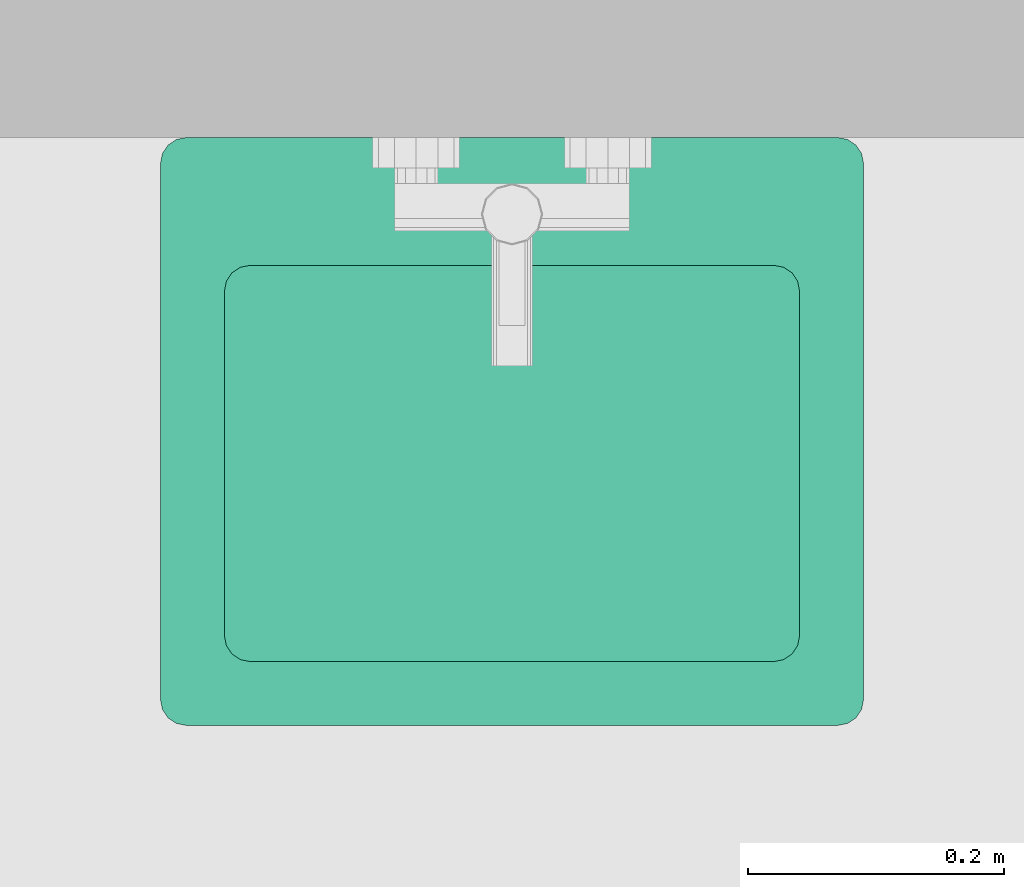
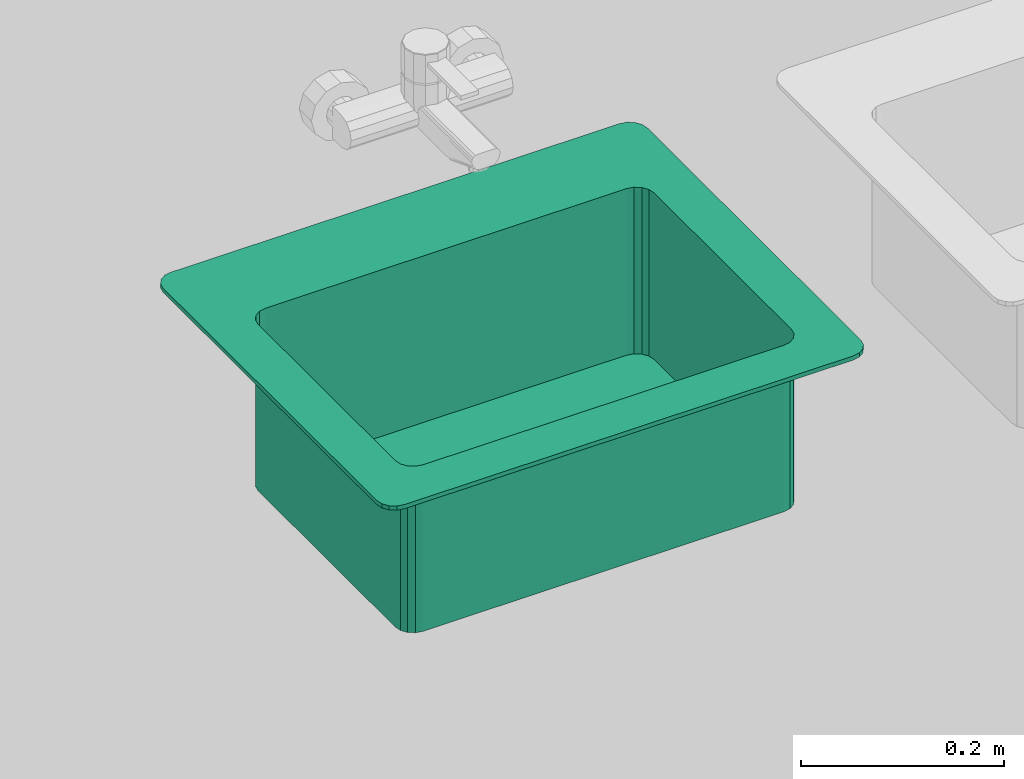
# One storey, part 261 of 301: 1 flow terminal.
"""IFC2X3 building model written with IfcOpenShell, lengths in millimetres."""

from ifc_helpers import new_model, entity, si_unit, converted_unit, derived_unit, money_unit, direction, frame, origin_with_axes, place, context, subcontext, project, spatial, open_shell, faceted_brep, surface_model, source, transform, mapped, type_object, element, save


model = new_model("IFC2X3")

# Units and contexts
model_context = context("Model", 3, precision=0.01, world=origin_with_axes(), true_north=direction((0.0, 1.0)))
body_context = subcontext(model_context, "Body", "Model", "MODEL_VIEW")
ifc_project = project(units=[si_unit("LENGTHUNIT", "METRE", prefix="MILLI"), si_unit("AREAUNIT", "SQUARE_METRE"), si_unit("VOLUMEUNIT", "CUBIC_METRE"), converted_unit("PLANEANGLEUNIT", "DEGREE", entity("IfcPlaneAngleMeasure", 0.0174532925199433), si_unit("PLANEANGLEUNIT", "RADIAN"), dimensions=[0, 0, 0, 0, 0, 0, 0]), money_unit("EUR"), converted_unit("TIMEUNIT", "Year", entity("IfcTimeMeasure", 31557600.0), si_unit("TIMEUNIT", "SECOND"), dimensions=[0, 0, 1, 0, 0, 0, 0]), si_unit("MASSUNIT", "GRAM", prefix="KILO"), si_unit("THERMODYNAMICTEMPERATUREUNIT", "DEGREE_CELSIUS"), si_unit("LUMINOUSINTENSITYUNIT", "LUMEN"), si_unit("ENERGYUNIT", "JOULE", prefix="MEGA"), derived_unit("THERMALCONDUCTANCEUNIT", [(si_unit("POWERUNIT", "WATT"), 1), (si_unit("LENGTHUNIT", "METRE"), -1), (si_unit("THERMODYNAMICTEMPERATUREUNIT", "KELVIN"), -1)]), derived_unit("SPECIFICHEATCAPACITYUNIT", [(si_unit("ENERGYUNIT", "JOULE"), 1), (si_unit("MASSUNIT", "GRAM", prefix="KILO"), -1), (si_unit("THERMODYNAMICTEMPERATUREUNIT", "KELVIN"), -1)]), derived_unit("MASSDENSITYUNIT", [(si_unit("MASSUNIT", "GRAM", prefix="KILO"), 1), (si_unit("VOLUMEUNIT", "CUBIC_METRE"), -1)])], contexts=[model_context])

# Site, building, storey
site_placement = place(None, frame((0.0, 0.0, 8650.0), z_axis=(0.0, 0.0, 1.0), x_axis=(1.0, 0.0, 0.0)))
site = spatial("IfcSite", under=ifc_project, at=site_placement, Name="43301:001:0844", CompositionType="ELEMENT")
building_placement = place(site_placement, origin_with_axes())
building = spatial("IfcBuilding", under=site, at=building_placement, Name="Kuressaare Ametikooli tuulikute mehaanikute õppekorpus", CompositionType="ELEMENT")
storey_placement = place(building_placement, origin_with_axes())
storey = spatial("IfcBuildingStorey", under=building, at=storey_placement, Name="1.korrus", CompositionType="ELEMENT", Elevation=0.0)

# Flow terminal
sanitary_terminal_type = type_object("IfcSanitaryTerminalType", Name="Sink General 27", PredefinedType="NOTDEFINED")
shared_shape = source(origin_with_axes(), body_context, "Body", "SurfaceModel", [
    surface_model("IfcShellBasedSurfaceModel", [(70.0, 50.0, 705.0), (479.9999999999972, 50.0, 705.0), (479.9999999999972, 50.0, 899.9999999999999), (70.0, 50.0, 899.9999999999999), (62.34633135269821, 51.52240934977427, 705.0), (55.85786437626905, 55.85786437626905, 705.0), (51.52240934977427, 62.34633135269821, 705.0), (50.0, 70.0, 705.0), (50.0, 340.0000000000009, 705.0), (51.52240934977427, 347.6536686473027, 705.0), (55.85786437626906, 354.1421356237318, 705.0), (62.34633135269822, 358.4775906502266, 705.0), (70.0, 360.0000000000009, 705.0), (479.9999999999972, 360.0000000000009, 705.0), (487.653668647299, 358.4775906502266, 705.0), (494.1421356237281, 354.1421356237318, 705.0), (498.4775906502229, 347.6536686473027, 705.0), (499.9999999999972, 340.0000000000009, 705.0), (499.9999999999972, 70.0, 705.0), (498.4775906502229, 62.3463313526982, 705.0), (494.1421356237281, 55.85786437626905, 705.0), (487.6536686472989, 51.52240934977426, 705.0), (487.6536686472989, 51.52240934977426, 899.9999999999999), (62.34633135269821, 51.52240934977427, 899.9999999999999), (55.85786437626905, 55.85786437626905, 899.9999999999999), (51.52240934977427, 62.34633135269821, 899.9999999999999), (50.0, 70.0, 899.9999999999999), (50.0, 340.0000000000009, 899.9999999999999), (51.52240934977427, 347.6536686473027, 899.9999999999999), (55.85786437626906, 354.1421356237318, 899.9999999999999), (62.34633135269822, 358.4775906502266, 899.9999999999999), (70.0, 360.0000000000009, 899.9999999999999), (479.9999999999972, 360.0000000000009, 899.9999999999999), (487.653668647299, 358.4775906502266, 899.9999999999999), (494.1421356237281, 354.1421356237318, 899.9999999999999), (498.4775906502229, 347.6536686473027, 899.9999999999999), (499.9999999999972, 340.0000000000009, 899.9999999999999), (499.9999999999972, 70.0, 899.9999999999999), (498.4775906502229, 62.3463313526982, 899.9999999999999), (494.1421356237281, 55.85786437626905, 899.9999999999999)], [open_shell([[[0, 1, 2, 3]], [[0, 4, 5, 6, 7, 8, 9, 10, 11, 12, 13, 14, 15, 16, 17, 18, 19, 20, 21, 1]], [[1, 21, 22, 2]], [[4, 0, 3, 23]], [[5, 4, 23, 24]], [[6, 5, 24, 25]], [[7, 6, 25, 26]], [[8, 7, 26, 27]], [[9, 8, 27, 28]], [[10, 9, 28, 29]], [[11, 10, 29, 30]], [[12, 11, 30, 31]], [[13, 12, 31, 32]], [[14, 13, 32, 33]], [[15, 14, 33, 34]], [[16, 15, 34, 35]], [[17, 16, 35, 36]], [[18, 17, 36, 37]], [[19, 18, 37, 38]], [[20, 19, 38, 39]], [[21, 20, 39, 22]]])]),
    faceted_brep([(20.0, 0.0, 899.9999999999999), (529.9999999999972, 0.0, 899.9999999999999), (529.9999999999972, 0.0, 904.9999999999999), (20.0, 0.0, 904.9999999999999), (12.34633135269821, 1.522409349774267, 899.9999999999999), (5.857864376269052, 5.857864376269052, 899.9999999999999), (1.522409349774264, 12.34633135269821, 899.9999999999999), (0.0, 20.0, 899.9999999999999), (0.0, 440.0000000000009, 899.9999999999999), (1.522409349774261, 447.6536686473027, 899.9999999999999), (5.85786437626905, 454.1421356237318, 899.9999999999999), (12.34633135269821, 458.4775906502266, 899.9999999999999), (20.0, 460.0000000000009, 899.9999999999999), (529.9999999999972, 460.0000000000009, 899.9999999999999), (537.6536686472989, 458.4775906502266, 899.9999999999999), (544.1421356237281, 454.1421356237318, 899.9999999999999), (548.4775906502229, 447.6536686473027, 899.9999999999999), (549.9999999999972, 440.0000000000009, 899.9999999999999), (549.9999999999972, 20.0, 899.9999999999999), (548.4775906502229, 12.3463313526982, 899.9999999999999), (544.142135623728, 5.857864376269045, 899.9999999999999), (537.6536686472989, 1.522409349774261, 899.9999999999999), (70.0, 50.0, 899.9999999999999), (479.9999999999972, 50.0, 899.9999999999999), (487.6536686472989, 51.52240934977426, 899.9999999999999), (494.1421356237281, 55.85786437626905, 899.9999999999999), (498.4775906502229, 62.3463313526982, 899.9999999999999), (499.9999999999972, 70.0, 899.9999999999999), (499.9999999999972, 340.0000000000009, 899.9999999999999), (498.4775906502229, 347.6536686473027, 899.9999999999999), (494.1421356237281, 354.1421356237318, 899.9999999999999), (487.653668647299, 358.4775906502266, 899.9999999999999), (479.9999999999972, 360.0000000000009, 899.9999999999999), (70.0, 360.0000000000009, 899.9999999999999), (62.34633135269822, 358.4775906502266, 899.9999999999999), (55.85786437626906, 354.1421356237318, 899.9999999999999), (51.52240934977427, 347.6536686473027, 899.9999999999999), (50.0, 340.0000000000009, 899.9999999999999), (50.0, 70.0, 899.9999999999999), (51.52240934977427, 62.34633135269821, 899.9999999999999), (55.85786437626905, 55.85786437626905, 899.9999999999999), (62.34633135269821, 51.52240934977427, 899.9999999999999), (537.6536686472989, 1.522409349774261, 904.9999999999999), (544.142135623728, 5.857864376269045, 904.9999999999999), (548.4775906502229, 12.3463313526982, 904.9999999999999), (549.9999999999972, 20.0, 904.9999999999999), (549.9999999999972, 440.0000000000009, 904.9999999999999), (548.4775906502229, 447.6536686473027, 904.9999999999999), (544.1421356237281, 454.1421356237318, 904.9999999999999), (537.6536686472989, 458.4775906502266, 904.9999999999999), (529.9999999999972, 460.0000000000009, 904.9999999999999), (20.0, 460.0000000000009, 904.9999999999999), (12.34633135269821, 458.4775906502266, 904.9999999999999), (5.85786437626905, 454.1421356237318, 904.9999999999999), (1.522409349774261, 447.6536686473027, 904.9999999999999), (0.0, 440.0000000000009, 904.9999999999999), (0.0, 20.0, 904.9999999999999), (1.522409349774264, 12.34633135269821, 904.9999999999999), (5.857864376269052, 5.857864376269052, 904.9999999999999), (12.34633135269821, 1.522409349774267, 904.9999999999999), (70.0, 50.0, 904.9999999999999), (62.34633135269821, 51.52240934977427, 904.9999999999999), (55.85786437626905, 55.85786437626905, 904.9999999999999), (51.52240934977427, 62.34633135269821, 904.9999999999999), (50.0, 70.0, 904.9999999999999), (50.0, 340.0000000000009, 904.9999999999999), (51.52240934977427, 347.6536686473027, 904.9999999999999), (55.85786437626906, 354.1421356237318, 904.9999999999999), (62.34633135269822, 358.4775906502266, 904.9999999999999), (70.0, 360.0000000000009, 904.9999999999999), (479.9999999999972, 360.0000000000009, 904.9999999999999), (487.653668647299, 358.4775906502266, 904.9999999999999), (494.1421356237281, 354.1421356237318, 904.9999999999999), (498.4775906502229, 347.6536686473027, 904.9999999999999), (499.9999999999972, 340.0000000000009, 904.9999999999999), (499.9999999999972, 70.0, 904.9999999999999), (498.4775906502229, 62.3463313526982, 904.9999999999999), (494.1421356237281, 55.85786437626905, 904.9999999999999), (487.6536686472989, 51.52240934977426, 904.9999999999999), (479.9999999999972, 50.0, 904.9999999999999)], [[[0, 1, 2, 3]], [[0, 4, 5, 6, 7, 8, 9, 10, 11, 12, 13, 14, 15, 16, 17, 18, 19, 20, 21, 1], [22, 23, 24, 25, 26, 27, 28, 29, 30, 31, 32, 33, 34, 35, 36, 37, 38, 39, 40, 41]], [[1, 21, 42, 2]], [[3, 2, 42, 43, 44, 45, 46, 47, 48, 49, 50, 51, 52, 53, 54, 55, 56, 57, 58, 59], [60, 61, 62, 63, 64, 65, 66, 67, 68, 69, 70, 71, 72, 73, 74, 75, 76, 77, 78, 79]], [[4, 0, 3, 59]], [[5, 4, 59, 58]], [[6, 5, 58, 57]], [[7, 6, 57, 56]], [[8, 7, 56, 55]], [[9, 8, 55, 54]], [[10, 9, 54, 53]], [[11, 10, 53, 52]], [[12, 11, 52, 51]], [[13, 12, 51, 50]], [[14, 13, 50, 49]], [[15, 14, 49, 48]], [[16, 15, 48, 47]], [[17, 16, 47, 46]], [[18, 17, 46, 45]], [[19, 18, 45, 44]], [[20, 19, 44, 43]], [[21, 20, 43, 42]], [[23, 22, 60, 79]], [[24, 23, 79, 78]], [[25, 24, 78, 77]], [[26, 25, 77, 76]], [[27, 26, 76, 75]], [[28, 27, 75, 74]], [[29, 28, 74, 73]], [[30, 29, 73, 72]], [[31, 30, 72, 71]], [[32, 31, 71, 70]], [[33, 32, 70, 69]], [[34, 33, 69, 68]], [[35, 34, 68, 67]], [[36, 35, 67, 66]], [[37, 36, 66, 65]], [[38, 37, 65, 64]], [[39, 38, 64, 63]], [[40, 39, 63, 62]], [[41, 40, 62, 61]], [[22, 41, 61, 60]]]),
])
flow_terminal_placement = place(storey_placement, frame((125965.2609667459, 19424.46984143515, 0.0), z_axis=(0.0, 0.0, 1.0), x_axis=(1.0, 0.0, 0.0)))
element("IfcFlowTerminal", 1, at=flow_terminal_placement, inside=storey, type_object=sanitary_terminal_type, Name="V3", context=body_context, shape_type="MappedRepresentation", body=[
    mapped(shared_shape, transform((0.0, 0.0, 0.0))),
])

save(model, "model.ifc")
